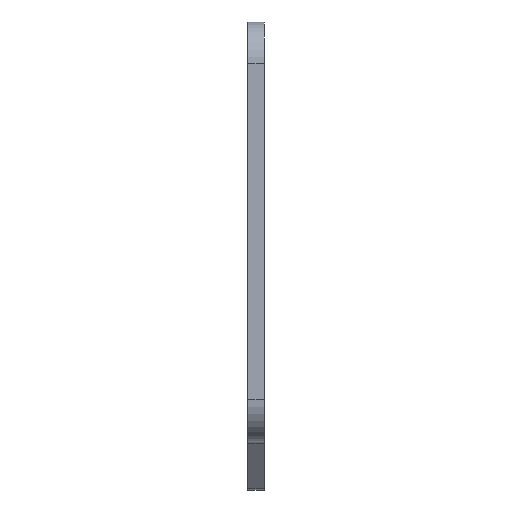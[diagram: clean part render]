
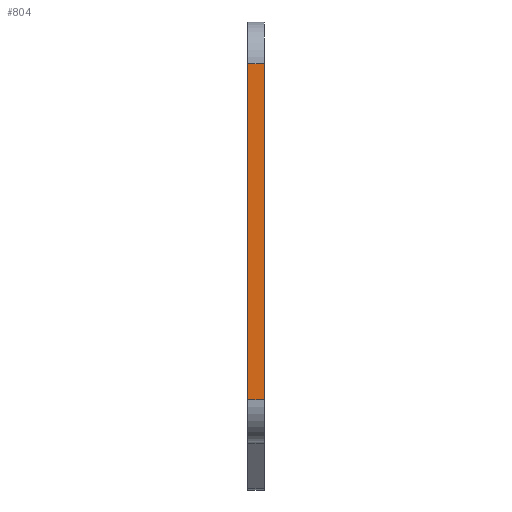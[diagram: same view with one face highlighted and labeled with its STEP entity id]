
A CAD part, front view. The second image highlights one B-rep face of the part: STEP entity #804.
In plain terms, the highlighted planar face has unit normal (0, -1, 0).
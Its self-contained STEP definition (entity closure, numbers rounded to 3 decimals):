
#50=PLANE('',#916);
#91=FACE_OUTER_BOUND('',#150,.T.);
#150=EDGE_LOOP('',(#735,#736,#737,#738));
#155=LINE('',#1179,#220);
#169=LINE('',#1248,#234);
#170=LINE('',#1251,#235);
#180=LINE('',#1283,#245);
#220=VECTOR('',#933,10.);
#234=VECTOR('',#993,10.);
#235=VECTOR('',#996,10.);
#245=VECTOR('',#1024,10.);
#335=VERTEX_POINT('',#1176);
#336=VERTEX_POINT('',#1178);
#368=VERTEX_POINT('',#1246);
#369=VERTEX_POINT('',#1250);
#410=EDGE_CURVE('',#335,#336,#155,.T.);
#445=EDGE_CURVE('',#368,#335,#169,.T.);
#446=EDGE_CURVE('',#336,#369,#170,.T.);
#463=EDGE_CURVE('',#368,#369,#180,.T.);
#735=ORIENTED_EDGE('',*,*,#445,.F.);
#736=ORIENTED_EDGE('',*,*,#463,.T.);
#737=ORIENTED_EDGE('',*,*,#446,.F.);
#738=ORIENTED_EDGE('',*,*,#410,.F.);
#804=ADVANCED_FACE('',(#91),#50,.T.);
#916=AXIS2_PLACEMENT_3D('',#1390,#1159,#1160);
#933=DIRECTION('',(0.,0.,-1.));
#993=DIRECTION('',(1.,0.,0.));
#996=DIRECTION('',(-1.,0.,0.));
#1024=DIRECTION('',(0.,0.,-1.));
#1159=DIRECTION('center_axis',(0.,-1.,0.));
#1160=DIRECTION('ref_axis',(0.,0.,-1.));
#1176=CARTESIAN_POINT('',(4.,-50.,40.));
#1178=CARTESIAN_POINT('',(4.,-50.,-40.));
#1179=CARTESIAN_POINT('',(4.,-50.,50.));
#1246=CARTESIAN_POINT('',(0.,-50.,40.));
#1248=CARTESIAN_POINT('',(0.,-50.,40.));
#1250=CARTESIAN_POINT('',(0.,-50.,-40.));
#1251=CARTESIAN_POINT('',(0.,-50.,-40.));
#1283=CARTESIAN_POINT('',(0.,-50.,50.));
#1390=CARTESIAN_POINT('Origin',(0.,-50.,50.));
